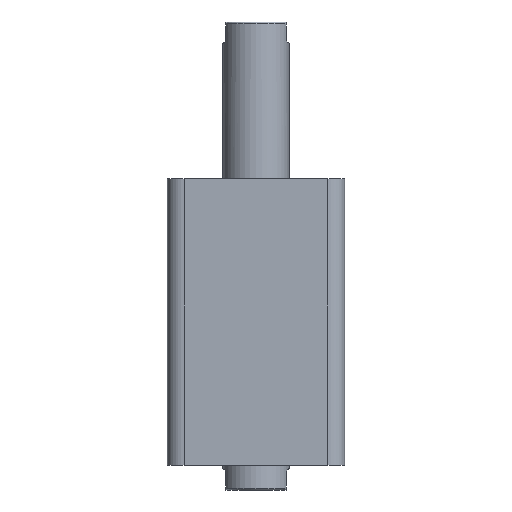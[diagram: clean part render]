
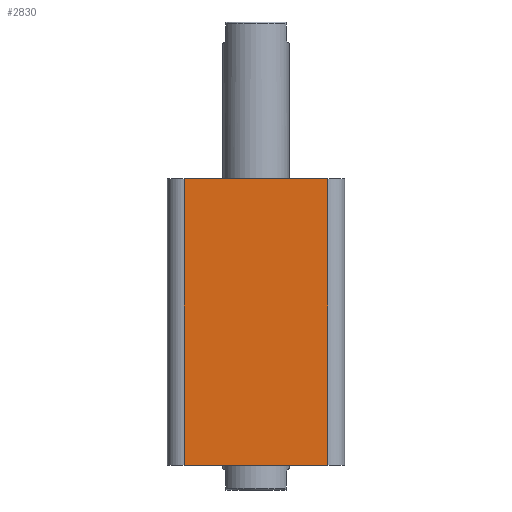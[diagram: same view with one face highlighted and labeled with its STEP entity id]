
A CAD part, front view. The second image highlights one B-rep face of the part: STEP entity #2830.
In plain terms, the highlighted planar face has unit normal (0, -1, 0).
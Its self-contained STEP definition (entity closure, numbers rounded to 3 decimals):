
#321 = LINE ( 'NONE', #1277, #327 ) ;
#323 = LINE ( 'NONE', #1268, #325 ) ;
#325 = VECTOR ( 'NONE', #1272, 1000. ) ;
#326 = LINE ( 'NONE', #1282, #329 ) ;
#327 = VECTOR ( 'NONE', #1281, 1000. ) ;
#328 = LINE ( 'NONE', #1284, #331 ) ;
#329 = VECTOR ( 'NONE', #1283, 1000. ) ;
#331 = VECTOR ( 'NONE', #1285, 1000. ) ;
#547 = FACE_OUTER_BOUND ( 'NONE', #827, .T. ) ;
#827 = EDGE_LOOP ( 'NONE', ( #888, #910, #884, #918 ) ) ;
#855 = VERTEX_POINT ( 'NONE', #3155 ) ;
#858 = VERTEX_POINT ( 'NONE', #3158 ) ;
#884 = ORIENTED_EDGE ( 'NONE', *, *, #1709, .T. ) ;
#888 = ORIENTED_EDGE ( 'NONE', *, *, #1711, .F. ) ;
#910 = ORIENTED_EDGE ( 'NONE', *, *, #1710, .T. ) ;
#918 = ORIENTED_EDGE ( 'NONE', *, *, #1708, .T. ) ;
#1268 = CARTESIAN_POINT ( 'NONE',  ( 38., -47., 152. ) ) ;
#1272 = DIRECTION ( 'NONE',  ( 0., 0., 1. ) ) ;
#1277 = CARTESIAN_POINT ( 'NONE',  ( -47., -47., 0. ) ) ;
#1281 = DIRECTION ( 'NONE',  ( 1., 0., 0. ) ) ;
#1282 = CARTESIAN_POINT ( 'NONE',  ( -38., -47., 152. ) ) ;
#1283 = DIRECTION ( 'NONE',  ( 0., 0., -1. ) ) ;
#1284 = CARTESIAN_POINT ( 'NONE',  ( -47., -47., 152. ) ) ;
#1285 = DIRECTION ( 'NONE',  ( 1., 0., 0. ) ) ;
#1586 = CARTESIAN_POINT ( 'NONE',  ( -38., -47., 152. ) ) ;
#1639 = CARTESIAN_POINT ( 'NONE',  ( -38., -47., 0. ) ) ;
#1708 = EDGE_CURVE ( 'NONE', #858, #855, #323, .T. ) ;
#1709 = EDGE_CURVE ( 'NONE', #2375, #858, #321, .T. ) ;
#1710 = EDGE_CURVE ( 'NONE', #2127, #2375, #326, .T. ) ;
#1711 = EDGE_CURVE ( 'NONE', #2127, #855, #328, .T. ) ;
#1968 = AXIS2_PLACEMENT_3D ( 'NONE', #2425, #2432, #2433 ) ;
#2127 = VERTEX_POINT ( 'NONE', #1586 ) ;
#2375 = VERTEX_POINT ( 'NONE', #1639 ) ;
#2425 = CARTESIAN_POINT ( 'NONE',  ( -47., -47., 152. ) ) ;
#2431 = PLANE ( 'NONE',  #1968 ) ;
#2432 = DIRECTION ( 'NONE',  ( 0., 1., 0. ) ) ;
#2433 = DIRECTION ( 'NONE',  ( 0., 0., 1. ) ) ;
#2830 = ADVANCED_FACE ( 'NONE', ( #547 ), #2431, .F. ) ;
#3155 = CARTESIAN_POINT ( 'NONE',  ( 38., -47., 152. ) ) ;
#3158 = CARTESIAN_POINT ( 'NONE',  ( 38., -47., 0. ) ) ;
